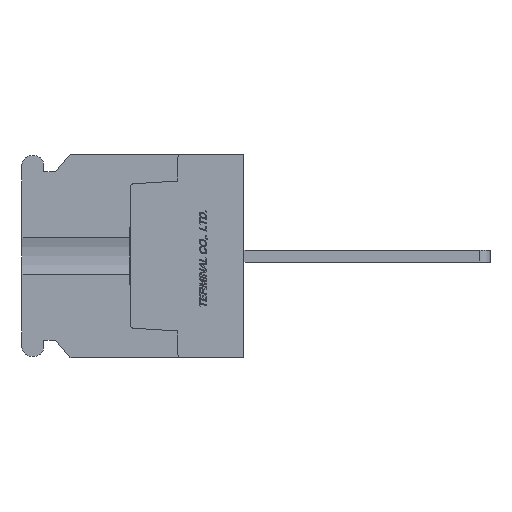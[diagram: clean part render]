
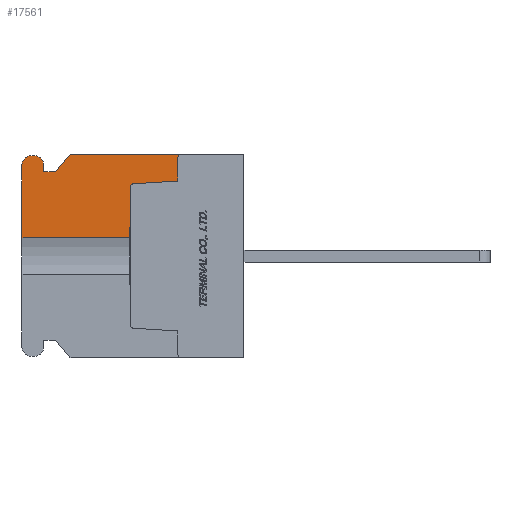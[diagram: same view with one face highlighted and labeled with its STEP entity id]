
A CAD part, left-side view. The second image highlights one B-rep face of the part: STEP entity #17561.
In plain terms, the highlighted planar face has unit normal (-1, 0, 0).
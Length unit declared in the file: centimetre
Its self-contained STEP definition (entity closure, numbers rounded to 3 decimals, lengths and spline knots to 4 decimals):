
#404=CIRCLE('',#30019,0.03);
#405=CIRCLE('',#30023,0.03);
#406=CIRCLE('',#30025,0.075);
#407=CIRCLE('',#30026,0.075);
#1522=VERTEX_POINT('',#24633);
#1523=VERTEX_POINT('',#24635);
#1524=VERTEX_POINT('',#24639);
#1525=VERTEX_POINT('',#24643);
#1526=VERTEX_POINT('',#24647);
#1527=VERTEX_POINT('',#24651);
#1528=VERTEX_POINT('',#24653);
#1529=VERTEX_POINT('',#24655);
#1530=VERTEX_POINT('',#24657);
#1531=VERTEX_POINT('',#24659);
#1532=VERTEX_POINT('',#24661);
#1533=VERTEX_POINT('',#24663);
#1534=VERTEX_POINT('',#24665);
#1535=VERTEX_POINT('',#24667);
#3418=VECTOR('',#19615,1.);
#3420=VECTOR('',#19618,1.);
#3422=VECTOR('',#19625,1.);
#3423=VECTOR('',#19626,1.);
#3424=VECTOR('',#19627,1.);
#3425=VECTOR('',#19628,1.);
#3426=VECTOR('',#19629,1.);
#3427=VECTOR('',#19632,1.);
#3428=VECTOR('',#19635,1.);
#3429=VECTOR('',#19636,1.);
#5356=LINE('',#24640,#3418);
#5358=LINE('',#24644,#3420);
#5360=LINE('',#24650,#3422);
#5361=LINE('',#24652,#3423);
#5362=LINE('',#24654,#3424);
#5363=LINE('',#24656,#3425);
#5364=LINE('',#24658,#3426);
#5365=LINE('',#24662,#3427);
#5366=LINE('',#24666,#3428);
#5367=LINE('',#24668,#3429);
#7402=EDGE_CURVE('',#1523,#1522,#404,.T.);
#7405=EDGE_CURVE('',#1522,#1524,#5356,.T.);
#7407=EDGE_CURVE('',#1524,#1525,#5358,.T.);
#7409=EDGE_CURVE('',#1525,#1526,#405,.T.);
#7410=EDGE_CURVE('',#1527,#1523,#5360,.T.);
#7411=EDGE_CURVE('',#1528,#1526,#5361,.T.);
#7412=EDGE_CURVE('',#1529,#1528,#5362,.T.);
#7413=EDGE_CURVE('',#1530,#1529,#5363,.T.);
#7414=EDGE_CURVE('',#1531,#1530,#5364,.T.);
#7415=EDGE_CURVE('',#1532,#1531,#406,.T.);
#7416=EDGE_CURVE('',#1533,#1532,#5365,.T.);
#7417=EDGE_CURVE('',#1534,#1533,#407,.T.);
#7418=EDGE_CURVE('',#1535,#1534,#5366,.T.);
#7419=EDGE_CURVE('',#1535,#1527,#5367,.T.);
#10659=ORIENTED_EDGE('',*,*,#7410,.T.);
#10660=ORIENTED_EDGE('',*,*,#7402,.T.);
#10661=ORIENTED_EDGE('',*,*,#7405,.T.);
#10662=ORIENTED_EDGE('',*,*,#7407,.T.);
#10663=ORIENTED_EDGE('',*,*,#7409,.T.);
#10664=ORIENTED_EDGE('',*,*,#7411,.F.);
#10665=ORIENTED_EDGE('',*,*,#7412,.F.);
#10666=ORIENTED_EDGE('',*,*,#7413,.F.);
#10667=ORIENTED_EDGE('',*,*,#7414,.F.);
#10668=ORIENTED_EDGE('',*,*,#7415,.F.);
#10669=ORIENTED_EDGE('',*,*,#7416,.F.);
#10670=ORIENTED_EDGE('',*,*,#7417,.F.);
#10671=ORIENTED_EDGE('',*,*,#7418,.F.);
#10672=ORIENTED_EDGE('',*,*,#7419,.T.);
#15341=EDGE_LOOP('',(#10659,#10660,#10661,#10662,#10663,#10664,#10665,#10666,
#10667,#10668,#10669,#10670,#10671,#10672));
#16461=FACE_BOUND('',#15341,.T.);
#17561=ADVANCED_FACE('',(#16461),#18509,.F.);
#18509=PLANE('',#30024);
#19610=DIRECTION('',(1.,0.,0.));
#19611=DIRECTION('',(0.,0.,0.03));
#19615=DIRECTION('',(0.,-0.998,0.061));
#19618=DIRECTION('',(0.,0.,1.));
#19622=DIRECTION('',(1.,0.,0.));
#19623=DIRECTION('',(0.,0.,0.03));
#19624=DIRECTION('',(1.,0.,0.));
#19625=DIRECTION('',(0.,0.,1.));
#19626=DIRECTION('',(0.,-1.,0.));
#19627=DIRECTION('',(0.,-0.625,0.781));
#19628=DIRECTION('',(0.,-1.,0.));
#19629=DIRECTION('',(0.,0.,-1.));
#19630=DIRECTION('',(1.,0.,0.));
#19631=DIRECTION('',(0.,0.,-0.075));
#19632=DIRECTION('',(0.,-1.,0.));
#19633=DIRECTION('',(1.,0.,0.));
#19634=DIRECTION('',(0.,0.,-0.075));
#19635=DIRECTION('',(0.,0.,1.));
#19636=DIRECTION('',(0.,-1.,0.));
#24633=CARTESIAN_POINT('',(-1.1,0.9218,0.6017));
#24634=CARTESIAN_POINT('',(-1.1,0.92,0.5718));
#24635=CARTESIAN_POINT('',(-1.1,0.95,0.5718));
#24639=CARTESIAN_POINT('',(-1.1,0.55,0.6245));
#24640=CARTESIAN_POINT('',(-1.1,0.859,0.6056));
#24643=CARTESIAN_POINT('',(-1.1,0.55,0.82));
#24644=CARTESIAN_POINT('',(-1.1,0.55,0.3611));
#24647=CARTESIAN_POINT('',(-1.1,0.52,0.85));
#24648=CARTESIAN_POINT('',(-1.1,0.52,0.82));
#24649=CARTESIAN_POINT('',(-1.1,0.9454,0.));
#24650=CARTESIAN_POINT('',(-1.1,0.95,0.));
#24651=CARTESIAN_POINT('',(-1.1,0.95,0.1521));
#24652=CARTESIAN_POINT('',(-1.1,1.45,0.85));
#24653=CARTESIAN_POINT('',(-1.1,1.45,0.85));
#24654=CARTESIAN_POINT('',(-1.1,1.57,0.7));
#24655=CARTESIAN_POINT('',(-1.1,1.57,0.7));
#24656=CARTESIAN_POINT('',(-1.1,1.67,0.7));
#24657=CARTESIAN_POINT('',(-1.1,1.67,0.7));
#24658=CARTESIAN_POINT('',(-1.1,1.67,0.76));
#24659=CARTESIAN_POINT('',(-1.1,1.67,0.76));
#24660=CARTESIAN_POINT('',(-1.1,1.745,0.76));
#24661=CARTESIAN_POINT('',(-1.1,1.745,0.835));
#24662=CARTESIAN_POINT('',(-1.1,1.775,0.835));
#24663=CARTESIAN_POINT('',(-1.1,1.775,0.835));
#24664=CARTESIAN_POINT('',(-1.1,1.775,0.76));
#24665=CARTESIAN_POINT('',(-1.1,1.85,0.76));
#24666=CARTESIAN_POINT('',(-1.1,1.85,-0.76));
#24667=CARTESIAN_POINT('',(-1.1,1.85,0.1521));
#24668=CARTESIAN_POINT('',(-1.1,1.4,0.1521));
#30019=AXIS2_PLACEMENT_3D('',#24634,#19610,#19611);
#30023=AXIS2_PLACEMENT_3D('',#24648,#19622,#19623);
#30024=AXIS2_PLACEMENT_3D('',#24649,#19624,$);
#30025=AXIS2_PLACEMENT_3D('',#24660,#19630,#19631);
#30026=AXIS2_PLACEMENT_3D('',#24664,#19633,#19634);
